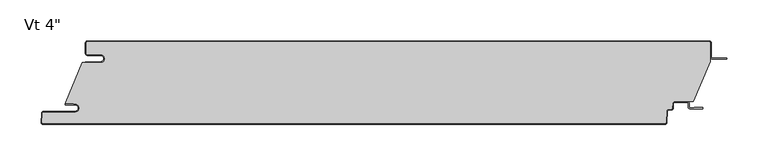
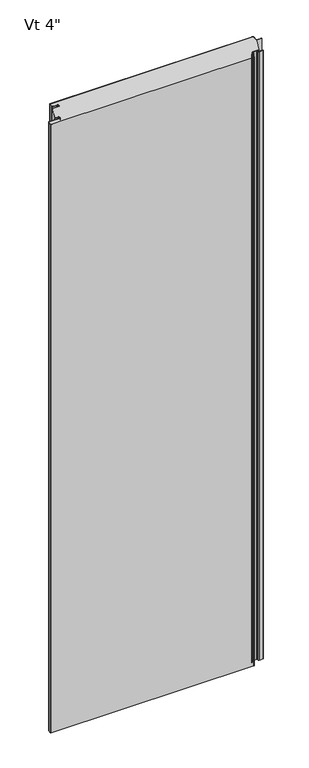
"""IFC4 building model written with IfcOpenShell, lengths in millimetres: plate geometry."""

from ifc_helpers import new_model, si_unit, point, frame, frame_2d, origin, origin_with_axes, place, context, project, spatial, polyline, circle_curve, ellipse_curve, trimmed, segment, composite_curve, outline, extrude, source, transform, mapped, element, save
from ifc_brep_helpers import plane_surface, cylinder_surface, revolved_surface, extruded_surface, advanced_brep


def plate_4ca61c65(model_context):
    return source(origin(), model_context, "Body", "SolidModel", [
        extrude(outline(composite_curve([segment(polyline([(-362.0437502, -16.4625), (-377.9187502, -16.4625)]), True, "CONTINUOUS"), segment(trimmed(circle_curve(frame_2d((-377.9187502, -15.08125)), 1.38125), [point((-377.9187502, -16.4625))], [point((-379.3000002, -15.08125))], False, "CARTESIAN"), True, "CONTINUOUS"), segment(polyline([(-379.3000002, -15.08125), (-379.3000002, -2.38125)]), True, "CONTINUOUS"), segment(trimmed(circle_curve(frame_2d((-377.9187502, -2.38125)), 1.38125), [point((-379.3000002, -2.38125))], [point((-377.9187502, -1.0))], False, "CARTESIAN"), True, "CONTINUOUS"), segment(polyline([(-377.9187502, -1.0), (377.7312498, -1.0)]), True, "CONTINUOUS"), segment(trimmed(circle_curve(frame_2d((377.7312498, -2.38125)), 1.38125), [point((377.7312498, -1.0))], [point((379.1124998, -2.38125))], False, "CARTESIAN"), True, "CONTINUOUS"), segment(polyline([(379.1124998, -2.38125), (379.1124998, -24.9057308), (358.2955432, -73.6125), (335.8540781, -73.6125)]), True, "CONTINUOUS"), segment(trimmed(circle_curve(frame_2d((335.8540781, -76.2)), 2.5875), [point((335.8540781, -73.6125))], [point((333.2701242, -76.0645807))], True, "CARTESIAN"), True, "CONTINUOUS"), segment(polyline([(333.2701242, -76.0645807), (332.9680479, -81.828539)]), True, "CONTINUOUS"), segment(trimmed(circle_curve(frame_2d((331.5886909, -81.75625)), 1.38125), [point((332.9680479, -81.828539))], [point((331.5886909, -83.1375))], False, "CARTESIAN"), True, "CONTINUOUS"), segment(polyline([(331.5886909, -83.1375), (328.5448845, -83.1375)]), True, "CONTINUOUS"), segment(trimmed(circle_curve(frame_2d((328.5448845, -85.725)), 2.5875), [point((328.5448845, -83.1375))], [point((325.9609306, -85.5895807))], True, "CARTESIAN"), True, "CONTINUOUS"), segment(polyline([(325.9609306, -85.5895807), (325.2428676, -99.291039)]), True, "CONTINUOUS"), segment(trimmed(circle_curve(frame_2d((323.8635105, -99.21875)), 1.38125), [point((325.2428676, -99.291039))], [point((323.8635105, -100.6))], False, "CARTESIAN"), True, "CONTINUOUS"), segment(polyline([(323.8635105, -100.6), (-431.7799537, -100.6)]), True, "CONTINUOUS"), segment(trimmed(circle_curve(frame_2d((-431.7799537, -99.21875)), 1.38125), [point((-431.7799537, -100.6))], [point((-433.1593107, -99.146461))], False, "CARTESIAN"), True, "CONTINUOUS"), segment(polyline([(-433.1593107, -99.146461), (-432.5769293, -88.033961)]), True, "CONTINUOUS"), segment(trimmed(circle_curve(frame_2d((-431.1975722, -88.10625)), 1.38125), [point((-432.5769293, -88.033961))], [point((-431.1975722, -86.725))], False, "CARTESIAN"), True, "CONTINUOUS"), segment(polyline([(-431.1975722, -86.725), (-393.0142676, -86.725)]), True, "CONTINUOUS"), segment(trimmed(circle_curve(frame_2d((-393.0142676, -81.75625)), 4.96875), [point((-393.0142676, -86.725))], [point((-393.0142676, -76.7875))], True, "CARTESIAN"), True, "CONTINUOUS"), segment(polyline([(-393.0142676, -76.7875), (-394.6017676, -76.99375), (-394.6017676, -76.2), (-404.1125002, -76.2), (-404.1125002, -74.6157227), (-384.2260924, -26.4), (-362.0437502, -26.4)]), True, "CONTINUOUS"), segment(trimmed(circle_curve(frame_2d((-362.0437502, -21.43125)), 4.96875), [point((-362.0437502, -26.4))], [point((-362.0437502, -16.4625))], True, "CARTESIAN"), True, "CONTINUOUS")], self_intersect=False)), origin_with_axes(), (0.0, 0.0, 1.0), 2400.0),
        extrude(outline(composite_curve([segment(polyline([(-380.3000002, -25.4), (-362.0437502, -25.4)]), True, "CONTINUOUS"), segment(trimmed(circle_curve(frame_2d((-362.0437502, -21.43125)), 3.96875), [point((-362.0437502, -25.4))], [point((-362.0437502, -17.4625))], True, "CARTESIAN"), True, "CONTINUOUS"), segment(polyline([(-362.0437502, -17.4625), (-377.9187502, -17.4625)]), True, "CONTINUOUS"), segment(trimmed(circle_curve(frame_2d((-377.9187502, -15.08125)), 2.38125), [point((-377.9187502, -17.4625))], [point((-380.3000002, -15.08125))], False, "CARTESIAN"), True, "CONTINUOUS"), segment(polyline([(-380.3000002, -15.08125), (-380.3000002, -2.38125)]), True, "CONTINUOUS"), segment(trimmed(circle_curve(frame_2d((-377.9187502, -2.38125)), 2.38125), [point((-380.3000002, -2.38125))], [point((-377.9187502, 0.0))], False, "CARTESIAN"), True, "CONTINUOUS"), segment(polyline([(-377.9187502, 0.0), (377.7312498, 0.0)]), True, "CONTINUOUS"), segment(trimmed(circle_curve(frame_2d((377.7312498, -2.38125)), 2.38125), [point((377.7312498, 0.0))], [point((380.1124998, -2.38125))], False, "CARTESIAN"), True, "CONTINUOUS"), segment(polyline([(380.1124998, -2.38125), (380.1124998, -19.446875)]), True, "CONTINUOUS"), segment(trimmed(circle_curve(frame_2d((381.6999998, -19.446875)), 1.5875), [point((380.1124998, -19.446875))], [point((381.6999998, -21.034375))], True, "CARTESIAN"), True, "CONTINUOUS"), segment(polyline([(381.6999998, -21.034375), (399.1624998, -21.034375), (399.1624998, -22.034375), (381.6999998, -22.034375)]), True, "CONTINUOUS"), segment(trimmed(circle_curve(frame_2d((381.6999998, -19.446875)), 2.5875), [point((381.6999998, -22.034375))], [point((379.1124998, -19.446875))], False, "CARTESIAN"), True, "CONTINUOUS"), segment(polyline([(379.1124998, -19.446875), (379.1124998, -2.38125)]), True, "CONTINUOUS"), segment(trimmed(circle_curve(frame_2d((377.7312498, -2.38125)), 1.38125), [point((379.1124998, -2.38125))], [point((377.7312498, -1.0))], True, "CARTESIAN"), True, "CONTINUOUS"), segment(polyline([(377.7312498, -1.0), (-377.9187502, -1.0)]), True, "CONTINUOUS"), segment(trimmed(circle_curve(frame_2d((-377.9187502, -2.38125)), 1.38125), [point((-377.9187502, -1.0))], [point((-379.3000002, -2.38125))], True, "CARTESIAN"), True, "CONTINUOUS"), segment(polyline([(-379.3000002, -2.38125), (-379.3000002, -15.08125)]), True, "CONTINUOUS"), segment(trimmed(circle_curve(frame_2d((-377.9187502, -15.08125)), 1.38125), [point((-379.3000002, -15.08125))], [point((-377.9187502, -16.4625))], True, "CARTESIAN"), True, "CONTINUOUS"), segment(polyline([(-377.9187502, -16.4625), (-362.0437502, -16.4625)]), True, "CONTINUOUS"), segment(trimmed(circle_curve(frame_2d((-362.0437502, -21.43125)), 4.96875), [point((-362.0437502, -16.4625))], [point((-362.0437502, -26.4))], False, "CARTESIAN"), True, "CONTINUOUS"), segment(polyline([(-362.0437502, -26.4), (-380.3000002, -26.4), (-380.3000002, -25.4)]), True, "CONTINUOUS")], self_intersect=False)), origin_with_axes(), (0.0, 0.0, 1.0), 2400.0),
        advanced_brep(
        [(-404.3252051, -76.2, 2400.0), (-404.3252051, -77.7875, 2400.0), (-393.0142676, -77.7875, 2400.0), (-393.0142676, -85.725, 2400.0), (-431.1975722, -85.725, 2400.0), (-433.5755588, -87.981625, 2400.0), (-434.1579402, -99.094125, 2400.0), (-431.7799537, -101.6, 2400.0), (323.8635105, -101.6, 2400.0), (326.2414971, -99.343375, 2400.0), (326.9595601, -85.6419167, 2400.0), (328.5448845, -84.1375, 2400.0), (331.5886909, -84.1375, 2400.0), (333.9666775, -81.880875, 2400.0), (334.2687537, -76.1169167, 2400.0), (335.8540781, -74.6125, 2400.0), (350.7294824, -74.6125, 2400.0), (352.3169824, -76.2, 2400.0), (352.3169824, -80.3671875, 2400.0), (354.6982324, -82.7484375, 2400.0), (369.189853, -82.7484375, 2400.0), (369.189853, -80.9546875, 2400.0), (359.4607324, -80.9546875, 2400.0), (359.4607324, -81.7484375, 2400.0), (354.6982324, -81.7484375, 2400.0), (353.3169824, -80.3671875, 2400.0), (353.3169824, -76.2, 2400.0), (350.7294824, -73.6125, 2400.0), (335.8540781, -73.6125, 2400.0), (333.2701242, -76.0645807, 2400.0), (332.9680479, -81.828539, 2400.0), (331.5886909, -83.1375, 2400.0), (328.5448845, -83.1375, 2400.0), (325.9609306, -85.5895807, 2400.0), (325.2428676, -99.291039, 2400.0), (323.8635105, -100.6, 2400.0), (-431.7799537, -100.6, 2400.0), (-433.1593107, -99.146461, 2400.0), (-432.5769293, -88.033961, 2400.0), (-431.1975722, -86.725, 2400.0), (-393.0142676, -86.725, 2400.0), (-393.0142676, -76.7875, 2400.0), (-394.6017676, -76.99375, 2400.0), (-394.6017676, -76.2, 2400.0), (-404.3252051, -76.2, 0.0), (-394.6017676, -76.2, 0.0), (-394.6017676, -76.99375, 0.0), (-393.0142676, -76.7875, 0.0), (-393.0142676, -86.725, 0.0), (-431.1975722, -86.725, 0.0), (-432.5769293, -88.033961, 0.0), (-433.1593107, -99.146461, 0.0), (-431.7799537, -100.6, 0.0), (323.8635105, -100.6, 0.0), (325.2428676, -99.291039, 0.0), (325.9609306, -85.5895807, 0.0), (328.5448845, -83.1375, 0.0), (331.5886909, -83.1375, 0.0), (332.9680479, -81.828539, 0.0), (333.2701242, -76.0645807, 0.0), (335.8540781, -73.6125, 0.0), (350.7294824, -73.6125, 0.0), (353.3169824, -76.2, 0.0), (353.3169824, -80.3671875, 0.0), (354.6982324, -81.7484375, 0.0), (359.4607324, -81.7484375, 0.0), (359.4607324, -80.9546875, 0.0), (369.189853, -80.9546875, 0.0), (369.189853, -82.7484375, 0.0), (354.6982324, -82.7484375, 0.0), (352.3169824, -80.3671875, 0.0), (352.3169824, -76.2, 0.0), (350.7294824, -74.6125, 0.0), (335.8540781, -74.6125, 0.0), (334.2687537, -76.1169167, 0.0), (333.9666775, -81.880875, 0.0), (331.5886909, -84.1375, 0.0), (328.5448845, -84.1375, 0.0), (326.9595601, -85.6419167, 0.0), (326.2414971, -99.343375, 0.0), (323.8635105, -101.6, 0.0), (-431.7799537, -101.6, 0.0), (-434.1579402, -99.094125, 0.0), (-433.5755588, -87.981625, 0.0), (-431.1975722, -85.725, 0.0), (-393.0142676, -85.725, 0.0), (-393.0142676, -77.7875, 0.0), (-404.3252051, -77.7875, 0.0)],
        [
            (0, 1, circle_curve(frame((-404.3252051, -76.99375, 2400.0), z_axis=(0.0, 0.0, 1.0), x_axis=(1.0, 0.0, 0.0)), 0.79375)),
            (1, 2),
            (2, 3, circle_curve(frame((-393.0142676, -81.75625, 2400.0), z_axis=(0.0, 0.0, -1.0), x_axis=(1.0, 0.0, 0.0)), 3.96875)),
            (3, 4),
            (4, 5, circle_curve(frame((-431.1975722, -88.10625, 2400.0), z_axis=(0.0, 0.0, 1.0), x_axis=(1.0, 0.0, 0.0)), 2.38125)),
            (5, 6),
            (6, 7, circle_curve(frame((-431.7799537, -99.21875, 2400.0), z_axis=(0.0, 0.0, 1.0), x_axis=(1.0, 0.0, 0.0)), 2.38125)),
            (7, 8),
            (8, 9, circle_curve(frame((323.8635105, -99.21875, 2400.0), z_axis=(0.0, 0.0, 1.0), x_axis=(1.0, 0.0, 0.0)), 2.38125)),
            (9, 10),
            (10, 11, circle_curve(frame((328.5448845, -85.725, 2400.0), z_axis=(0.0, 0.0, -1.0), x_axis=(1.0, 0.0, 0.0)), 1.5875)),
            (11, 12),
            (12, 13, circle_curve(frame((331.5886909, -81.75625, 2400.0), z_axis=(0.0, 0.0, 1.0), x_axis=(1.0, 0.0, 0.0)), 2.38125)),
            (13, 14),
            (14, 15, circle_curve(frame((335.8540781, -76.2, 2400.0), z_axis=(0.0, 0.0, -1.0), x_axis=(1.0, 0.0, 0.0)), 1.5875)),
            (15, 16),
            (16, 17, circle_curve(frame((350.7294824, -76.2, 2400.0), z_axis=(0.0, 0.0, -1.0), x_axis=(1.0, 0.0, 0.0)), 1.5875)),
            (17, 18),
            (18, 19, circle_curve(frame((354.6982324, -80.3671875, 2400.0), z_axis=(0.0, 0.0, 1.0), x_axis=(1.0, 0.0, 0.0)), 2.38125)),
            (19, 20),
            (20, 21, ellipse_curve(frame((369.189853, -81.8515625, 2400.0), z_axis=(0.0, 0.0, 1.0), x_axis=(0.0, 1.0, 0.0)), 0.896875, 0.7852275)),
            (21, 22),
            (22, 23),
            (23, 24),
            (24, 25, circle_curve(frame((354.6982324, -80.3671875, 2400.0), z_axis=(0.0, 0.0, -1.0), x_axis=(1.0, 0.0, 0.0)), 1.38125)),
            (25, 26),
            (26, 27, circle_curve(frame((350.7294824, -76.2, 2400.0), z_axis=(0.0, 0.0, 1.0), x_axis=(1.0, 0.0, 0.0)), 2.5875)),
            (27, 28),
            (28, 29, circle_curve(frame((335.8540781, -76.2, 2400.0), z_axis=(0.0, 0.0, 1.0), x_axis=(1.0, 0.0, 0.0)), 2.5875)),
            (29, 30),
            (30, 31, circle_curve(frame((331.5886909, -81.75625, 2400.0), z_axis=(0.0, 0.0, -1.0), x_axis=(1.0, 0.0, 0.0)), 1.38125)),
            (31, 32),
            (32, 33, circle_curve(frame((328.5448845, -85.725, 2400.0), z_axis=(0.0, 0.0, 1.0), x_axis=(1.0, 0.0, 0.0)), 2.5875)),
            (33, 34),
            (34, 35, circle_curve(frame((323.8635105, -99.21875, 2400.0), z_axis=(0.0, 0.0, -1.0), x_axis=(1.0, 0.0, 0.0)), 1.38125)),
            (35, 36),
            (36, 37, circle_curve(frame((-431.7799537, -99.21875, 2400.0), z_axis=(0.0, 0.0, -1.0), x_axis=(1.0, 0.0, 0.0)), 1.38125)),
            (37, 38),
            (38, 39, circle_curve(frame((-431.1975722, -88.10625, 2400.0), z_axis=(0.0, 0.0, -1.0), x_axis=(1.0, 0.0, 0.0)), 1.38125)),
            (39, 40),
            (40, 41, circle_curve(frame((-393.0142676, -81.75625, 2400.0), z_axis=(0.0, 0.0, 1.0), x_axis=(1.0, 0.0, 0.0)), 4.96875)),
            (41, 42),
            (42, 43),
            (43, 0),
            (44, 45),
            (45, 46),
            (46, 47),
            (47, 48, circle_curve(frame((-393.0142676, -81.75625, 0.0), z_axis=(0.0, 0.0, -1.0), x_axis=(1.0, 0.0, 0.0)), 4.96875)),
            (48, 49),
            (49, 50, circle_curve(frame((-431.1975722, -88.10625, 0.0), z_axis=(0.0, 0.0, 1.0), x_axis=(1.0, 0.0, 0.0)), 1.38125)),
            (50, 51),
            (51, 52, circle_curve(frame((-431.7799537, -99.21875, 0.0), z_axis=(0.0, 0.0, 1.0), x_axis=(1.0, 0.0, 0.0)), 1.38125)),
            (52, 53),
            (53, 54, circle_curve(frame((323.8635105, -99.21875, 0.0), z_axis=(0.0, 0.0, 1.0), x_axis=(1.0, 0.0, 0.0)), 1.38125)),
            (54, 55),
            (55, 56, circle_curve(frame((328.5448845, -85.725, 0.0), z_axis=(0.0, 0.0, -1.0), x_axis=(1.0, 0.0, 0.0)), 2.5875)),
            (56, 57),
            (57, 58, circle_curve(frame((331.5886909, -81.75625, 0.0), z_axis=(0.0, 0.0, 1.0), x_axis=(1.0, 0.0, 0.0)), 1.38125)),
            (58, 59),
            (59, 60, circle_curve(frame((335.8540781, -76.2, 0.0), z_axis=(0.0, 0.0, -1.0), x_axis=(1.0, 0.0, 0.0)), 2.5875)),
            (60, 61),
            (61, 62, circle_curve(frame((350.7294824, -76.2, 0.0), z_axis=(0.0, 0.0, -1.0), x_axis=(1.0, 0.0, 0.0)), 2.5875)),
            (62, 63),
            (63, 64, circle_curve(frame((354.6982324, -80.3671875, 0.0), z_axis=(0.0, 0.0, 1.0), x_axis=(1.0, 0.0, 0.0)), 1.38125)),
            (64, 65),
            (65, 66),
            (66, 67),
            (67, 68, ellipse_curve(frame((369.189853, -81.8515625, 0.0), z_axis=(0.0, 0.0, -1.0), x_axis=(0.0, 1.0, 0.0)), 0.896875, 0.7852275)),
            (68, 69),
            (69, 70, circle_curve(frame((354.6982324, -80.3671875, 0.0), z_axis=(0.0, 0.0, -1.0), x_axis=(1.0, 0.0, 0.0)), 2.38125)),
            (70, 71),
            (71, 72, circle_curve(frame((350.7294824, -76.2, 0.0), z_axis=(0.0, 0.0, 1.0), x_axis=(1.0, 0.0, 0.0)), 1.5875)),
            (72, 73),
            (73, 74, circle_curve(frame((335.8540781, -76.2, 0.0), z_axis=(0.0, 0.0, 1.0), x_axis=(1.0, 0.0, 0.0)), 1.5875)),
            (74, 75),
            (75, 76, circle_curve(frame((331.5886909, -81.75625, 0.0), z_axis=(0.0, 0.0, -1.0), x_axis=(1.0, 0.0, 0.0)), 2.38125)),
            (76, 77),
            (77, 78, circle_curve(frame((328.5448845, -85.725, 0.0), z_axis=(0.0, 0.0, 1.0), x_axis=(1.0, 0.0, 0.0)), 1.5875)),
            (78, 79),
            (79, 80, circle_curve(frame((323.8635105, -99.21875, 0.0), z_axis=(0.0, 0.0, -1.0), x_axis=(1.0, 0.0, 0.0)), 2.38125)),
            (80, 81),
            (81, 82, circle_curve(frame((-431.7799537, -99.21875, 0.0), z_axis=(0.0, 0.0, -1.0), x_axis=(1.0, 0.0, 0.0)), 2.38125)),
            (82, 83),
            (83, 84, circle_curve(frame((-431.1975722, -88.10625, 0.0), z_axis=(0.0, 0.0, -1.0), x_axis=(1.0, 0.0, 0.0)), 2.38125)),
            (84, 85),
            (85, 86, circle_curve(frame((-393.0142676, -81.75625, 0.0), z_axis=(0.0, 0.0, 1.0), x_axis=(1.0, 0.0, 0.0)), 3.96875)),
            (86, 87),
            (87, 44, circle_curve(frame((-404.3252051, -76.99375, 0.0), z_axis=(0.0, 0.0, -1.0), x_axis=(1.0, 0.0, 0.0)), 0.79375)),
            (20, 68),
            (67, 21),
            (66, 22),
            (65, 23),
            (41, 47),
            (46, 42),
            (45, 43),
            (40, 48),
            (39, 49),
            (38, 50),
            (37, 51),
            (33, 55),
            (54, 34),
            (32, 56),
            (31, 57),
            (30, 58),
            (29, 59),
            (28, 60),
            (64, 24),
            (63, 25),
            (62, 26),
            (61, 27),
            (18, 70),
            (69, 19),
            (17, 71),
            (16, 72),
            (15, 73),
            (14, 74),
            (13, 75),
            (12, 76),
            (11, 77),
            (10, 78),
            (9, 79),
            (5, 83),
            (82, 6),
            (4, 84),
            (3, 85),
            (2, 86),
            (1, 87),
            (0, 44),
            (36, 52),
            (35, 53),
            (8, 80),
            (7, 81),
        ],
        [
            plane_surface(frame((-0.0937502, -101.6, 2400.0), z_axis=(0.0, 0.0, 1.0), x_axis=(0.0, -1.0, 0.0))),
            plane_surface(frame((-0.0937502, -101.6, 0.0), z_axis=(0.0, 0.0, -1.0), x_axis=(0.0, -1.0, 0.0))),
            extruded_surface(trimmed(ellipse_curve(frame((369.189853, -81.8515625, 2400.0), z_axis=(0.0, 0.0, -1.0), x_axis=(0.0, 1.0, 0.0)), 0.896875, 0.7852275), [point((369.189853, -80.9546875, 2400.0))], [point((369.189853, -82.7484375, 2400.0))], True, "CARTESIAN"), (0.0, 0.0, -2400.0), 2400.0),
            plane_surface(frame((359.4607324, -80.9546875, 2400.0), z_axis=(0.0, 1.0, 0.0), x_axis=(0.0, 0.0, -1.0))),
            plane_surface(frame((359.4607324, -81.7484375, 2400.0), z_axis=(-1.0, 0.0, 0.0), x_axis=(0.0, 0.0, -1.0))),
            plane_surface(frame((-394.6017676, -76.99375, 2400.0), z_axis=(-0.12883844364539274, 0.9916655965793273, 0.0), x_axis=(0.0, 0.0, -1.0))),
            plane_surface(frame((-394.6017676, -76.2, 2400.0), z_axis=(1.0, 0.0, 0.0), x_axis=(0.0, 0.0, -1.0))),
            cylinder_surface(frame((-393.0142676, -81.75625, 2400.0), z_axis=(0.0, 0.0, 1.0), x_axis=(1.0, 0.0, 0.0)), 4.96875),
            plane_surface(frame((-393.0142676, -86.725, 2400.0), z_axis=(0.0, -1.0, 0.0), x_axis=(0.0, 0.0, -1.0))),
            revolved_surface(polyline([(-429.8163222, -88.10625, 0.0), (-429.8163222, -88.10625, 2400.0)]), (-431.1975722, -88.10625, 2400.0), (0.0, 0.0, -1.0)),
            plane_surface(frame((-432.5769293, -88.033961, 2400.0), z_axis=(0.9986295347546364, -0.05233595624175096, 0.0), x_axis=(0.0, 0.0, -1.0))),
            plane_surface(frame((325.2428676, -99.291039, 2400.0), z_axis=(-0.9986295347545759, 0.05233595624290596, 0.0), x_axis=(0.0, 0.0, -1.0))),
            cylinder_surface(frame((328.5448845, -85.725, 2400.0), z_axis=(0.0, 0.0, 1.0), x_axis=(1.0, 0.0, 0.0)), 2.5875),
            plane_surface(frame((328.5448845, -83.1375, 2400.0), z_axis=(0.0, 1.0, 0.0), x_axis=(0.0, 0.0, -1.0))),
            revolved_surface(polyline([(332.96994090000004, -81.75625, 0.0), (332.96994090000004, -81.75625, 2400.0)]), (331.5886909, -81.75625, 2400.0), (0.0, 0.0, -1.0)),
            plane_surface(frame((332.9680479, -81.828539, 2400.0), z_axis=(-0.998629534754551, 0.05233595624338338, 0.0), x_axis=(0.0, 0.0, -1.0))),
            cylinder_surface(frame((335.8540781, -76.2, 2400.0), z_axis=(0.0, 0.0, 1.0), x_axis=(1.0, 0.0, 0.0)), 2.5875),
            plane_surface(frame((354.6982324, -81.7484375, 2400.0), z_axis=(0.0, 1.0, 0.0), x_axis=(0.0, 0.0, -1.0))),
            revolved_surface(polyline([(356.0794824, -80.3671875, 0.0), (356.0794824, -80.3671875, 2400.0)]), (354.6982324, -80.3671875, 2400.0), (0.0, 0.0, -1.0)),
            plane_surface(frame((353.3169824, -76.2, 2400.0), z_axis=(1.0, 0.0, 0.0), x_axis=(0.0, 0.0, -1.0))),
            cylinder_surface(frame((350.7294824, -76.2, 2400.0), z_axis=(0.0, 0.0, 1.0), x_axis=(1.0, 0.0, 0.0)), 2.5875),
            plane_surface(frame((335.8540781, -73.6125, 2400.0), z_axis=(0.0, 1.0, 0.0), x_axis=(0.0, 0.0, -1.0))),
            cylinder_surface(frame((354.6982324, -80.3671875, 2400.0), z_axis=(0.0, 0.0, 1.0), x_axis=(1.0, 0.0, 0.0)), 2.38125),
            plane_surface(frame((352.3169824, -80.3671875, 2400.0), z_axis=(-1.0, 0.0, 0.0), x_axis=(0.0, 0.0, -1.0))),
            revolved_surface(polyline([(352.3169824, -76.2, 0.0), (352.3169824, -76.2, 2400.0)]), (350.7294824, -76.2, 2400.0), (0.0, 0.0, -1.0)),
            plane_surface(frame((350.7294824, -74.6125, 2400.0), z_axis=(0.0, -1.0, 0.0), x_axis=(0.0, 0.0, -1.0))),
            revolved_surface(polyline([(337.44157809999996, -76.2, 0.0), (337.44157809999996, -76.2, 2400.0)]), (335.8540781, -76.2, 2400.0), (0.0, 0.0, -1.0)),
            plane_surface(frame((334.2687537, -76.1169167, 2400.0), z_axis=(0.9986295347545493, -0.05233595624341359, 0.0), x_axis=(0.0, 0.0, -1.0))),
            cylinder_surface(frame((331.5886909, -81.75625, 2400.0), z_axis=(0.0, 0.0, 1.0), x_axis=(1.0, 0.0, 0.0)), 2.38125),
            plane_surface(frame((331.5886909, -84.1375, 2400.0), z_axis=(0.0, -1.0, 0.0), x_axis=(0.0, 0.0, -1.0))),
            revolved_surface(polyline([(330.1323845, -85.725, 0.0), (330.1323845, -85.725, 2400.0)]), (328.5448845, -85.725, 2400.0), (0.0, 0.0, -1.0)),
            plane_surface(frame((326.9595601, -85.6419167, 2400.0), z_axis=(0.9986295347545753, -0.052335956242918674, 0.0), x_axis=(0.0, 0.0, -1.0))),
            plane_surface(frame((-434.1579402, -99.094125, 2400.0), z_axis=(-0.9986295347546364, 0.05233595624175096, 0.0), x_axis=(0.0, 0.0, -1.0))),
            cylinder_surface(frame((-431.1975722, -88.10625, 2400.0), z_axis=(0.0, 0.0, 1.0), x_axis=(1.0, 0.0, 0.0)), 2.38125),
            plane_surface(frame((-431.1975722, -85.725, 2400.0), z_axis=(0.0, 1.0, 0.0), x_axis=(0.0, 0.0, -1.0))),
            revolved_surface(polyline([(-389.0455176, -81.75625, 0.0), (-389.0455176, -81.75625, 2400.0)]), (-393.0142676, -81.75625, 2400.0), (0.0, 0.0, -1.0)),
            plane_surface(frame((-393.0142676, -77.7875, 2400.0), z_axis=(0.0, -1.0, 0.0), x_axis=(0.0, 0.0, -1.0))),
            cylinder_surface(frame((-404.3252051, -76.99375, 2400.0), z_axis=(0.0, 0.0, 1.0), x_axis=(1.0, 0.0, 0.0)), 0.79375),
            plane_surface(frame((-404.3252051, -76.2, 2400.0), z_axis=(0.0, 1.0, 0.0), x_axis=(0.0, 0.0, -1.0))),
            revolved_surface(polyline([(-430.3987037, -99.21875, 0.0), (-430.3987037, -99.21875, 2400.0)]), (-431.7799537, -99.21875, 2400.0), (0.0, 0.0, -1.0)),
            plane_surface(frame((-431.7799537, -100.6, 2400.0), z_axis=(0.0, 1.0, 0.0), x_axis=(0.0, 0.0, -1.0))),
            revolved_surface(polyline([(325.24476050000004, -99.21875, 0.0), (325.24476050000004, -99.21875, 2400.0)]), (323.8635105, -99.21875, 2400.0), (0.0, 0.0, -1.0)),
            plane_surface(frame((369.189853, -82.7484375, 2400.0), z_axis=(0.0, -1.0, 0.0), x_axis=(0.0, 0.0, -1.0))),
            cylinder_surface(frame((323.8635105, -99.21875, 2400.0), z_axis=(0.0, 0.0, 1.0), x_axis=(1.0, 0.0, 0.0)), 2.38125),
            plane_surface(frame((323.8635105, -101.6, 2400.0), z_axis=(0.0, -1.0, 0.0), x_axis=(0.0, 0.0, -1.0))),
            cylinder_surface(frame((-431.7799537, -99.21875, 2400.0), z_axis=(0.0, 0.0, 1.0), x_axis=(1.0, 0.0, 0.0)), 2.38125),
        ],
        [
            (0, [[1, 2, 3, 4, 5, 6, 7, 8, 9, 10, 11, 12, 13, 14, 15, 16, 17, 18, 19, 20, 21, 22, 23, 24, 25, 26, 27, 28, 29, 30, 31, 32, 33, 34, 35, 36, 37, 38, 39, 40, 41, 42, 43, 44]]),
            (1, [[45, 46, 47, 48, 49, 50, 51, 52, 53, 54, 55, 56, 57, 58, 59, 60, 61, 62, 63, 64, 65, 66, 67, 68, 69, 70, 71, 72, 73, 74, 75, 76, 77, 78, 79, 80, 81, 82, 83, 84, 85, 86, 87, 88]]),
            (2, [[89, -68, 90, -21]]),
            (3, [[-90, -67, 91, -22]]),
            (4, [[-91, -66, 92, -23]]),
            (5, [[93, -47, 94, -42]]),
            (6, [[-94, -46, 95, -43]]),
            (7, [[96, -48, -93, -41]]),
            (8, [[97, -49, -96, -40]]),
            (9, [[98, -50, -97, -39]]),
            (10, [[99, -51, -98, -38]]),
            (11, [[100, -55, 101, -34]]),
            (12, [[102, -56, -100, -33]]),
            (13, [[103, -57, -102, -32]]),
            (14, [[104, -58, -103, -31]]),
            (15, [[105, -59, -104, -30]]),
            (16, [[106, -60, -105, -29]]),
            (17, [[-92, -65, 107, -24]]),
            (18, [[-107, -64, 108, -25]]),
            (19, [[-108, -63, 109, -26]]),
            (20, [[-109, -62, 110, -27]]),
            (21, [[-110, -61, -106, -28]]),
            (22, [[111, -70, 112, -19]]),
            (23, [[113, -71, -111, -18]]),
            (24, [[114, -72, -113, -17]]),
            (25, [[115, -73, -114, -16]]),
            (26, [[116, -74, -115, -15]]),
            (27, [[117, -75, -116, -14]]),
            (28, [[118, -76, -117, -13]]),
            (29, [[119, -77, -118, -12]]),
            (30, [[120, -78, -119, -11]]),
            (31, [[121, -79, -120, -10]]),
            (32, [[122, -83, 123, -6]]),
            (33, [[124, -84, -122, -5]]),
            (34, [[125, -85, -124, -4]]),
            (35, [[126, -86, -125, -3]]),
            (36, [[127, -87, -126, -2]]),
            (37, [[128, -88, -127, -1]]),
            (38, [[-95, -45, -128, -44]]),
            (39, [[129, -52, -99, -37]]),
            (40, [[130, -53, -129, -36]]),
            (41, [[-101, -54, -130, -35]]),
            (42, [[-112, -69, -89, -20]]),
            (43, [[131, -80, -121, -9]]),
            (44, [[132, -81, -131, -8]]),
            (45, [[-123, -82, -132, -7]]),
        ],
    ),
    ])


if __name__ == "__main__":
    model = new_model("IFC4")
    model_context = context("Model", 3, world=origin())
    ifc_project = project(units=[si_unit("LENGTHUNIT", "METRE", prefix="MILLI")], contexts=[model_context])
    site = spatial("IfcSite", under=ifc_project)
    building = spatial("IfcBuilding", under=site)
    placement = place(None, origin())
    plate_shape = plate_4ca61c65(model_context)
    element("IfcPlate", 1, ObjectType="KIP-30-DWTR-R19-CP-Vt-F : Vt 4\"", at=placement, inside=building, context=model_context, shape_type="MappedRepresentation", body=[
        mapped(plate_shape, transform((0.0, 0.0, 0.0), x_axis=(1.0, 0.0, 0.0), y_axis=(0.0, 1.0, 0.0), z_axis=(0.0, 0.0, 1.0))),
    ])
    save(model, "model.ifc")
